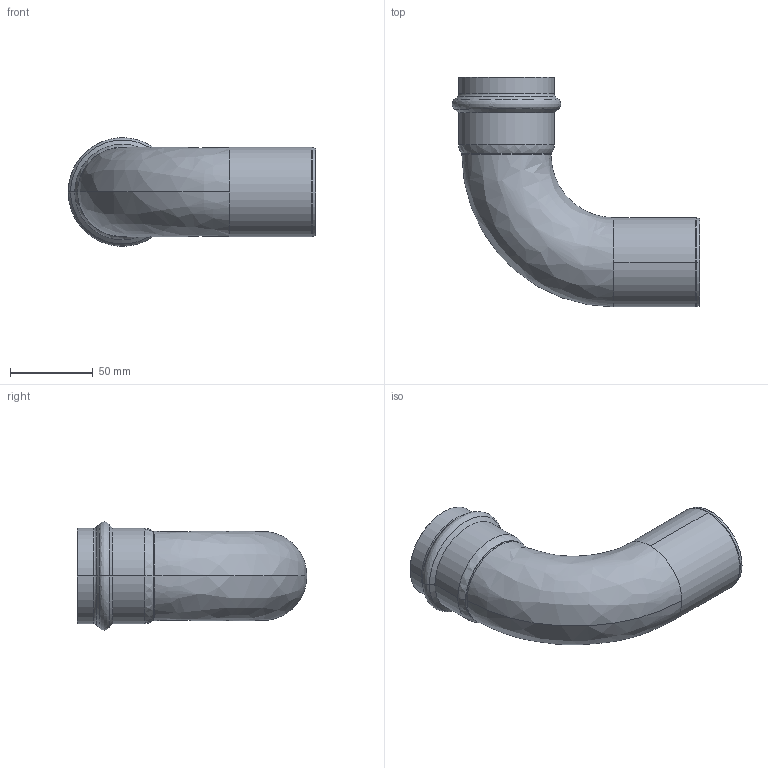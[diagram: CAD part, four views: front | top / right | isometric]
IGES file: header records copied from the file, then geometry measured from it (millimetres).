
Start section: Elysium IGES Interface
Global section: file name: C:\3d modellen sudo\C-Pr VP\SP8001V\8001VW54.igs; native system: CoCreate Modeling 17.00A  17-Jun-2010; preprocessor: CoCreate IGES_3D V2.2; author: Unknown; organization: Unknown; date: 20130129.140310; units: millimetre
Bounding box: 149.84 x 139.07 x 65.65 mm (x, y, z)
Volume: 62800.3 mm3; surface area: 69149 mm2
Topology: 1 solids, 1 shells, 60 faces, 130 edges, 74 vertices
Faces by surface type: bspline 60
